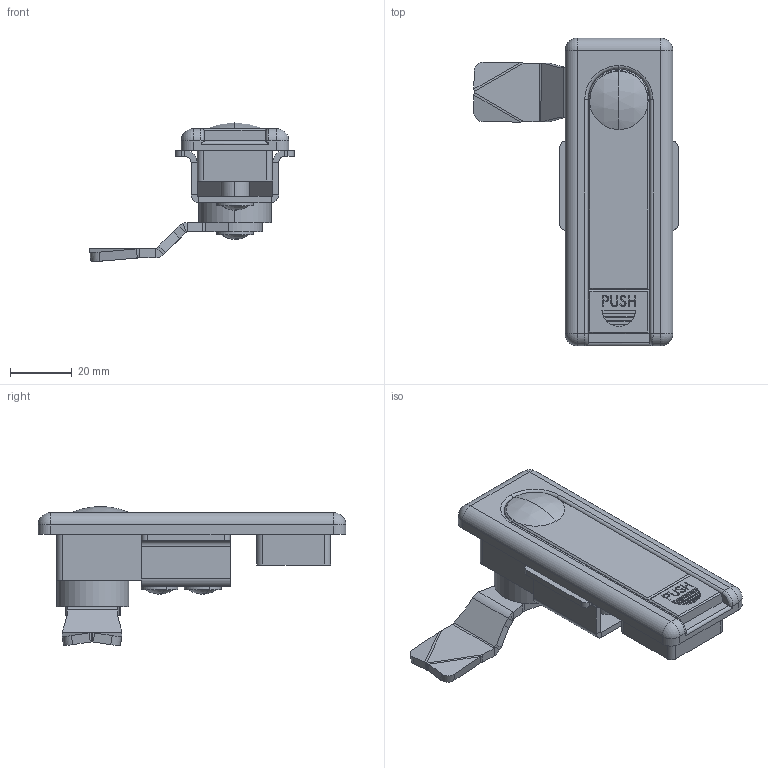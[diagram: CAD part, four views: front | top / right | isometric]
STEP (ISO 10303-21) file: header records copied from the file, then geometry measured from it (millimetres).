
FILE_DESCRIPTION (( 'STEP AP214' ), '1' );
FILE_NAME ('2.604.001.STEP', '2012-01-27T10:10:43', ( 'Techniczny' ), ( 'RST Roztocze' ), 'SwSTEP 2.0', 'SolidWorks 2010', '' );
FILE_SCHEMA (( 'AUTOMOTIVE_DESIGN' ));
Length unit declared in the file: millimetre
Products named in the file (5): 021-bryla; wkret; jezyk1; blacha; 2.604.001
Assembly tree (6 placements, depth 2):
  2.604.001
    wkret  x3
    021-bryla
    blacha
    jezyk1
Bounding box: 66.37 x 100 x 45.14 mm (x, y, z)
Volume: 54949.6 mm3; surface area: 22384.2 mm2
Topology: 6 solids, 6 shells, 360 faces, 877 edges, 548 vertices
Faces by surface type: plane 215, cylinder 91, bspline 36, sphere 12, cone 4, torus 2
Entity records: 10732 total; most frequent: CARTESIAN_POINT 3284, ORIENTED_EDGE 1530, DIRECTION 1444, EDGE_CURVE 765, LINE 488, VECTOR 488, AXIS2_PLACEMENT_3D 478, VERTEX_POINT 476
